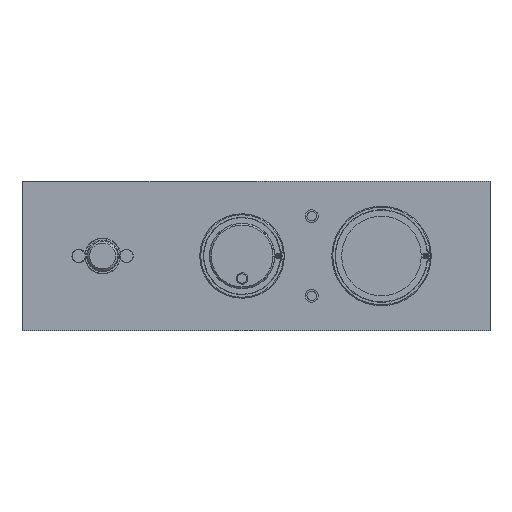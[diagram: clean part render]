
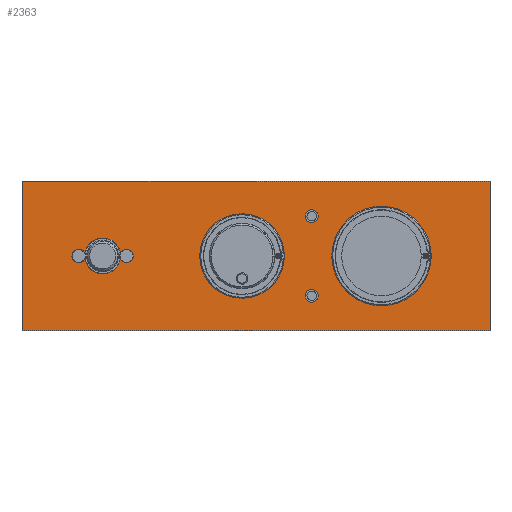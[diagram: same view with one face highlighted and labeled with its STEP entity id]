
A CAD part, front view. The second image highlights one B-rep face of the part: STEP entity #2363.
In plain terms, the highlighted planar face has unit normal (0, -1, 0).
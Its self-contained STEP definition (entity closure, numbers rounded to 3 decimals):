
#2140=DIRECTION('',(-1.,0.,0.));
#2141=VECTOR('',#2140,235.);
#2142=CARTESIAN_POINT('',(54.5,13.9,-37.5));
#2143=LINE('',#2142,#2141);
#2144=DIRECTION('',(0.,0.,1.));
#2145=VECTOR('',#2144,75.);
#2146=CARTESIAN_POINT('',(-180.5,13.9,-37.5));
#2147=LINE('',#2146,#2145);
#2148=DIRECTION('',(1.,0.,0.));
#2149=VECTOR('',#2148,235.);
#2150=CARTESIAN_POINT('',(-180.5,13.9,37.5));
#2151=LINE('',#2150,#2149);
#2152=DIRECTION('',(0.,0.,-1.));
#2153=VECTOR('',#2152,75.);
#2154=CARTESIAN_POINT('',(54.5,13.9,37.5));
#2155=LINE('',#2154,#2153);
#2300=CARTESIAN_POINT('',(54.5,13.9,-37.5));
#2301=CARTESIAN_POINT('',(-180.5,13.9,-37.5));
#2302=VERTEX_POINT('',#2300);
#2303=VERTEX_POINT('',#2301);
#2304=CARTESIAN_POINT('',(-180.5,13.9,37.5));
#2305=CARTESIAN_POINT('',(54.5,13.9,37.5));
#2306=VERTEX_POINT('',#2304);
#2307=VERTEX_POINT('',#2305);
#2348=CARTESIAN_POINT('',(-63.,13.9,0.));
#2349=DIRECTION('',(0.,1.,0.));
#2350=DIRECTION('',(0.,0.,1.));
#2351=AXIS2_PLACEMENT_3D('',#2348,#2349,#2350);
#2352=PLANE('',#2351);
#2354=ORIENTED_EDGE('',*,*,#2353,.T.);
#2356=ORIENTED_EDGE('',*,*,#2355,.T.);
#2358=ORIENTED_EDGE('',*,*,#2357,.T.);
#2360=ORIENTED_EDGE('',*,*,#2359,.T.);
#2361=EDGE_LOOP('',(#2354,#2356,#2358,#2360));
#2362=FACE_OUTER_BOUND('',#2361,.F.);
#2363=ADVANCED_FACE('',(#2362),#2352,.F.);
#2353=EDGE_CURVE('',#2302,#2303,#2143,.T.);
#2355=EDGE_CURVE('',#2303,#2306,#2147,.T.);
#2357=EDGE_CURVE('',#2306,#2307,#2151,.T.);
#2359=EDGE_CURVE('',#2307,#2302,#2155,.T.);
